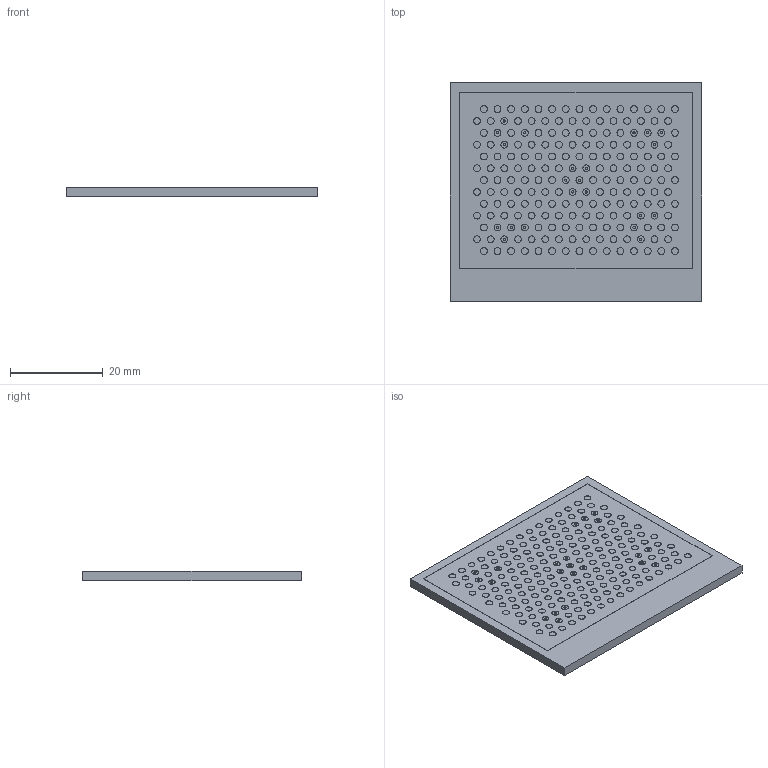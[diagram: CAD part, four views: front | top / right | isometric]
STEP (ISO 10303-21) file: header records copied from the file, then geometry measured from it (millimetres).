
FILE_DESCRIPTION(/* description */ (''),/* implementation_level */ '2;1');
FILE_NAME(/* name */ 'C:\#Vault-WorkDir\Konstruktions-Dokumente\Projekte\VISOR\Katalogzeichnungen\153-13569_ZCP 50-13x15.stp',/* time_stamp */ '2019-03-21T11:59:52+01:00',/* author */ ('SensoPart'),/* organization */ ('SensoPart'),/* preprocessor_version */ 'ST-DEVELOPER v17',/* originating_system */ 'Autodesk Inventor 2018',/* authorisation */ '');
FILE_SCHEMA (('AUTOMOTIVE_DESIGN { 1 0 10303 214 3 1 1 }'));
Length unit declared in the file: millimetre
Products named in the file (1): GH-ENG-0028000
Bounding box: 54 x 47 x 2.05 mm (x, y, z)
Volume: 5154.4 mm3; surface area: 5535.5 mm2
Topology: 1 solids, 1 shells, 445 faces, 675 edges, 450 vertices
Faces by surface type: plane 228, cylinder 217
Full cylindrical faces by diameter (mm): 0.489 x22, 1.468 x195
Entity records: 10353 total; most frequent: DIRECTION 2001, CARTESIAN_POINT 1571, ORIENTED_EDGE 1350, AXIS2_PLACEMENT_3D 880, EDGE_CURVE 675, EDGE_LOOP 663, VERTEX_POINT 450, FACE_OUTER_BOUND 445
